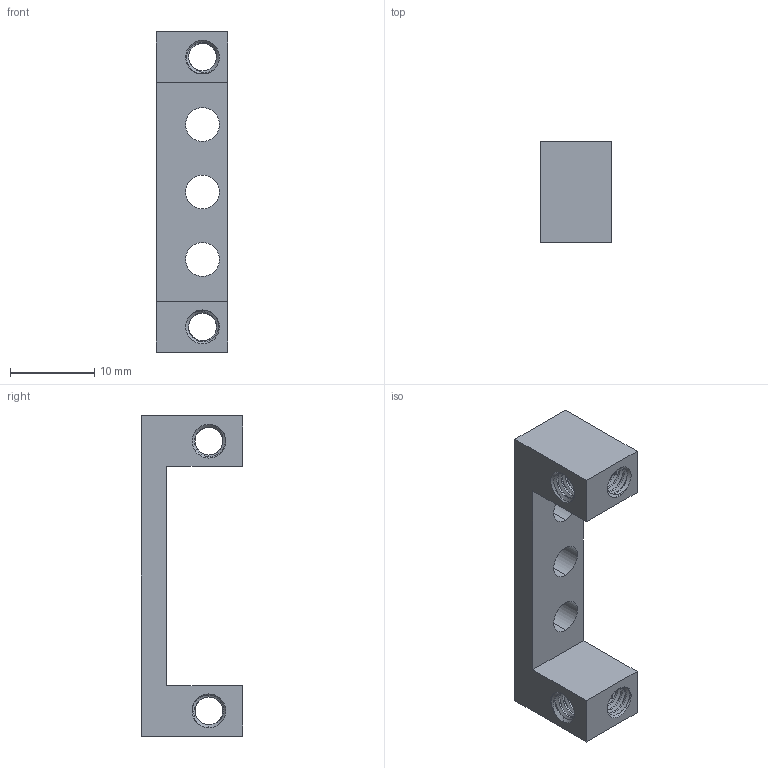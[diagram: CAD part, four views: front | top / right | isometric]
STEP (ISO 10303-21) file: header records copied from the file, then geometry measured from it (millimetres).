
FILE_DESCRIPTION (( 'STEP AP203' ), '1' );
FILE_NAME ('1205-0032-0002.STEP', '2017-04-05T19:18:41', ( '' ), ( '' ), 'SwSTEP 2.0', 'SolidWorks 2016', '' );
FILE_SCHEMA (( 'CONFIG_CONTROL_DESIGN' ));
Products named in the file (1): 1205-0032-0002
Bounding box: 8.5 x 12 x 38 mm (x, y, z)
Volume: 1415.2 mm3; surface area: 1957.7 mm2
Topology: 1 solids, 1 shells, 554 faces, 1647 edges, 1091 vertices
Faces by surface type: cylinder 345, bspline 173, cone 26, plane 10
Entity records: 207860 total; most frequent: CARTESIAN_POINT 196998, ORIENTED_EDGE 3294, EDGE_CURVE 1647, DIRECTION 1091, VERTEX_POINT 1091, B_SPLINE_CURVE_WITH_KNOTS 665, EDGE_LOOP 568, FACE_OUTER_BOUND 554
